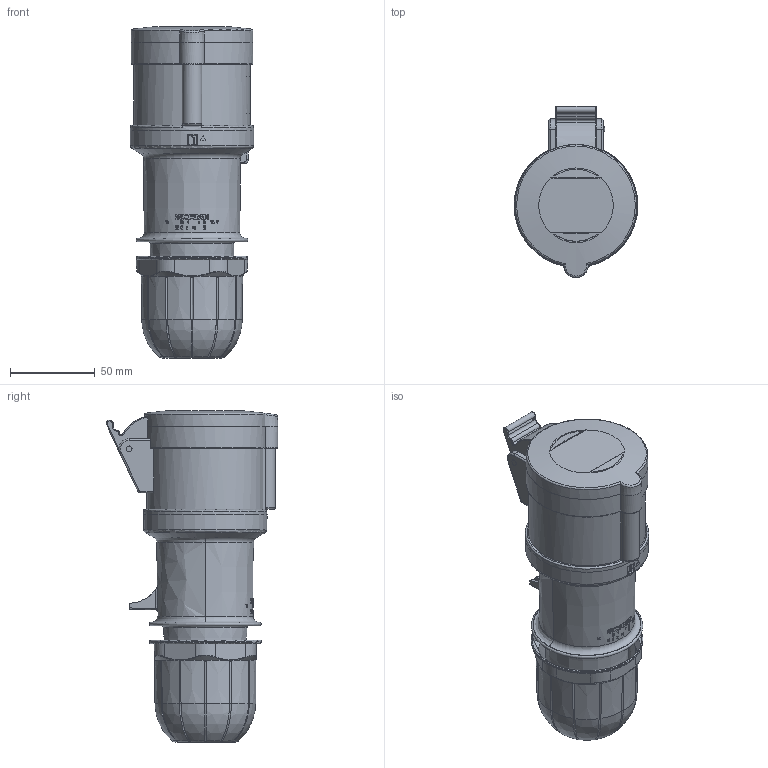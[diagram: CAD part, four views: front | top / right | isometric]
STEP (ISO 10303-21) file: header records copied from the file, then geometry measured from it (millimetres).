
FILE_DESCRIPTION(/* description */ (''),/* implementation_level */ '2;1');
FILE_NAME(/* name */ '4002124.stp',/* time_stamp */ '2017-05-09T06:00:06+02:00',/* author */ (''),/* organization */ (''),/* preprocessor_version */ 'ST-DEVELOPER v16',/* originating_system */ 'SIEMENS PLM Software NX 11.0',/* authorisation */ '');
FILE_SCHEMA (('AUTOMOTIVE_DESIGN { 1 0 10303 214 3 1 1 1 }'));
Length unit declared in the file: millimetre
Products named in the file (1): 4002124_LINKEDEXT_jt
Bounding box: 73 x 101.19 x 196.05 mm (x, y, z)
Surface area: 62884.8 mm2 (no closed solid volume)
Topology: 0 solids, 53 shells, 352 faces, 1614 edges, 1280 vertices
Faces by surface type: cylinder 91, plane 79, bspline 69, cone 55, torus 42, sphere 16
Full cylindrical faces by diameter (mm): 0.998 x4, 3.5 x1, 4 x1, 5 x1, 5.8 x1, 16 x1, 66 x1, 73 x1
Entity records: 46231 total; most frequent: CARTESIAN_POINT 32175, ORIENTED_EDGE 2234, DIRECTION 1976, EDGE_CURVE 1559, VERTEX_POINT 1264, AXIS2_PLACEMENT_3D 798, B_SPLINE_CURVE_WITH_KNOTS 661, EDGE_LOOP 395
